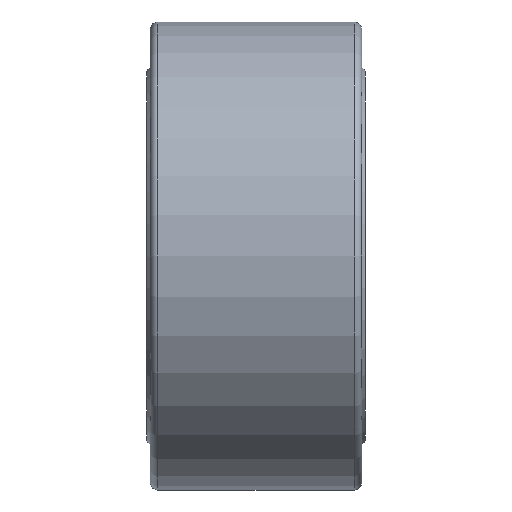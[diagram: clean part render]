
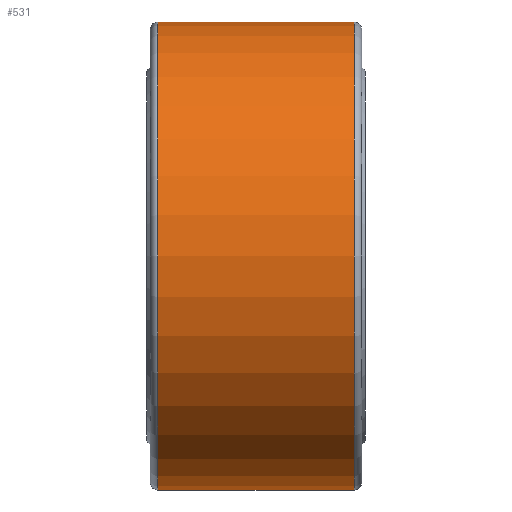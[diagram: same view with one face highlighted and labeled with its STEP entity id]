
A CAD part, front view. The second image highlights one B-rep face of the part: STEP entity #531.
In plain terms, the highlighted cylindrical face has radius 31 mm (diameter 62 mm), a full revolution.
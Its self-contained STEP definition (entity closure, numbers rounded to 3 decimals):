
#151=CYLINDRICAL_SURFACE('',#581,31.);
#169=FACE_BOUND('',#251,.T.);
#208=FACE_OUTER_BOUND('',#250,.T.);
#250=EDGE_LOOP('',(#450));
#251=EDGE_LOOP('',(#451));
#329=CIRCLE('',#580,31.);
#330=CIRCLE('',#582,31.);
#369=VERTEX_POINT('',#914);
#370=VERTEX_POINT('',#917);
#409=EDGE_CURVE('',#369,#369,#329,.T.);
#410=EDGE_CURVE('',#370,#370,#330,.T.);
#450=ORIENTED_EDGE('',*,*,#410,.F.);
#451=ORIENTED_EDGE('',*,*,#409,.F.);
#531=ADVANCED_FACE('',(#208,#169),#151,.T.);
#580=AXIS2_PLACEMENT_3D('',#915,#694,#695);
#581=AXIS2_PLACEMENT_3D('',#916,#696,#697);
#582=AXIS2_PLACEMENT_3D('',#918,#698,#699);
#694=DIRECTION('center_axis',(-1.,0.,0.));
#695=DIRECTION('ref_axis',(0.,-1.,0.));
#696=DIRECTION('center_axis',(1.,0.,0.));
#697=DIRECTION('ref_axis',(0.,1.,0.));
#698=DIRECTION('center_axis',(1.,0.,0.));
#699=DIRECTION('ref_axis',(0.,-1.,0.));
#914=CARTESIAN_POINT('',(-13.,31.,0.));
#915=CARTESIAN_POINT('Origin',(-13.,0.,0.));
#916=CARTESIAN_POINT('Origin',(0.,0.,
0.));
#917=CARTESIAN_POINT('',(13.,31.,0.));
#918=CARTESIAN_POINT('Origin',(13.,0.,0.));
